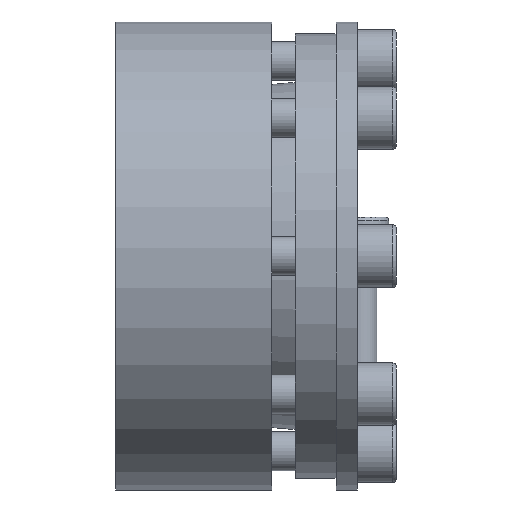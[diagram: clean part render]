
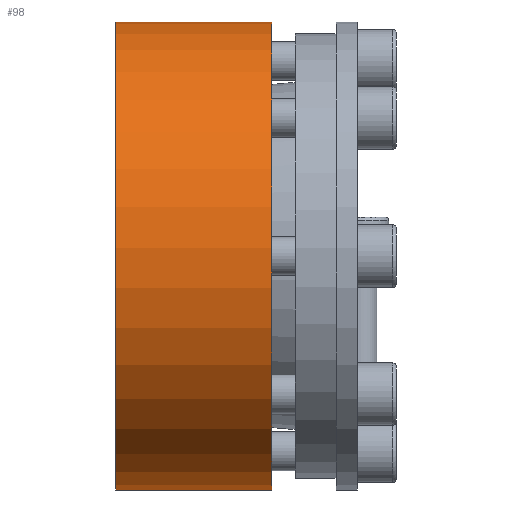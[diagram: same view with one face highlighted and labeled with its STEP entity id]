
A CAD part, left-side view. The second image highlights one B-rep face of the part: STEP entity #98.
In plain terms, the highlighted cylindrical face has radius 60 mm (diameter 120 mm), a partial arc.
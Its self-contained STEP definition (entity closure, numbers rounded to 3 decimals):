
#98 = ADVANCED_FACE( '', ( #225 ), #226, .T. );
#225 = FACE_OUTER_BOUND( '', #393, .T. );
#226 = CYLINDRICAL_SURFACE( '', #394, 60. );
#393 = EDGE_LOOP( '', ( #636, #637, #638, #639 ) );
#394 = AXIS2_PLACEMENT_3D( '', #640, #641, #642 );
#636 = ORIENTED_EDGE( '', *, *, #899, .F. );
#637 = ORIENTED_EDGE( '', *, *, #872, .T. );
#638 = ORIENTED_EDGE( '', *, *, #902, .T. );
#639 = ORIENTED_EDGE( '', *, *, #903, .T. );
#640 = CARTESIAN_POINT( '', ( 0., -60., 0. ) );
#641 = DIRECTION( '', ( 0., 1., 0. ) );
#642 = DIRECTION( '', ( 0., 0., -1. ) );
#872 = EDGE_CURVE( '', #1057, #1055, #1058, .F. );
#899 = EDGE_CURVE( '', #1057, #1102, #1103, .T. );
#902 = EDGE_CURVE( '', #1055, #1106, #1107, .T. );
#903 = EDGE_CURVE( '', #1106, #1102, #1108, .T. );
#1055 = VERTEX_POINT( '', #1365 );
#1057 = VERTEX_POINT( '', #1368 );
#1058 = LINE( '', #1369, #1370 );
#1102 = VERTEX_POINT( '', #1423 );
#1103 = CIRCLE( '', #1424, 60. );
#1106 = VERTEX_POINT( '', #1428 );
#1107 = CIRCLE( '', #1429, 60. );
#1108 = LINE( '', #1430, #1431 );
#1365 = CARTESIAN_POINT( '', ( 21.848, 62., 55.881 ) );
#1368 = CARTESIAN_POINT( '', ( 21.848, 22., 55.881 ) );
#1369 = CARTESIAN_POINT( '', ( 21.848, -60., 55.881 ) );
#1370 = VECTOR( '', #1580, 1000. );
#1423 = CARTESIAN_POINT( '', ( 24.065, 22., 54.962 ) );
#1424 = AXIS2_PLACEMENT_3D( '', #1626, #1627, #1628 );
#1428 = CARTESIAN_POINT( '', ( 24.065, 62., 54.962 ) );
#1429 = AXIS2_PLACEMENT_3D( '', #1630, #1631, #1632 );
#1430 = CARTESIAN_POINT( '', ( 24.065, -60., 54.962 ) );
#1431 = VECTOR( '', #1633, 1000. );
#1580 = DIRECTION( '', ( 0., -1., 0. ) );
#1626 = CARTESIAN_POINT( '', ( 0., 22., 0. ) );
#1627 = DIRECTION( '', ( 0., -1., 0. ) );
#1628 = DIRECTION( '', ( 0., 0., -1. ) );
#1630 = CARTESIAN_POINT( '', ( 0., 62., 0. ) );
#1631 = DIRECTION( '', ( 0., -1., 0. ) );
#1632 = DIRECTION( '', ( 0., 0., -1. ) );
#1633 = DIRECTION( '', ( 0., -1., 0. ) );
